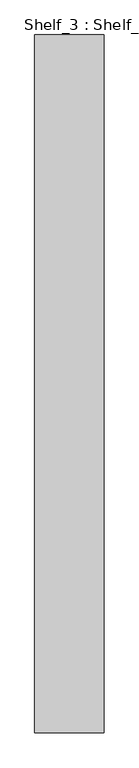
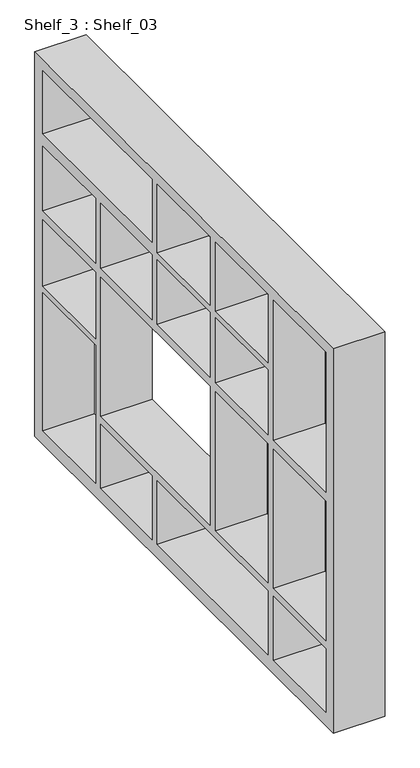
"""IFC4 building model written with IfcOpenShell, lengths in millimetres: furniture geometry, Shelf_3 : Shelf_03."""

from ifc_helpers import new_model, si_unit, frame, origin, place, context, project, spatial, polyline, outline, extrude, source, transform, mapped, element, save


def shelf_3_shelf_03_2a4fc885(model_context):
    return source(origin(), model_context, "Body", "SweptSolid", [
        extrude(outline(polyline([(13086.377102, 6410.0), (16556.377102, 6410.0), (16556.377102, 3685.0), (13086.377102, 3685.0), (13086.377102, 6410.0)]), holes=[polyline([(15191.933221, 5800.1572701), (15191.933221, 5340.1572701), (15791.933221, 5340.1572701), (15791.933221, 5800.1572701), (15191.933221, 5800.1572701)]), polyline([(14519.273461, 5800.1572701), (14519.273461, 5340.1572701), (15134.3278739, 5340.1572701), (15134.3278739, 5800.1572701), (14519.273461, 5800.1572701)]), polyline([(13846.1950469, 5800.1572701), (13846.1950469, 5340.1572701), (14453.5129263, 5340.1572701), (14453.5129263, 5800.1572701), (13846.1950469, 5800.1572701)]), polyline([(14519.273461, 6334.4508543), (14519.273461, 5848.4265117), (15134.3278739, 5848.4265117), (15134.3278739, 6334.4508543), (14519.273461, 6334.4508543)]), polyline([(14453.5129263, 6334.4508543), (13846.1950469, 6334.4508543), (13846.1950469, 5848.4265117), (14453.5129263, 5848.4265117), (14453.5129263, 6334.4508543)]), polyline([(16462.5169149, 6334.4508543), (15191.933221, 6334.4508543), (15191.933221, 5886.98304), (16462.5169149, 5886.98304), (16462.5169149, 6334.4508543)]), polyline([(13170.5427217, 6334.4508543), (13170.5427217, 5340.1572701), (13779.9881479, 5340.1572701), (13779.9881479, 6334.4508543), (13170.5427217, 6334.4508543)]), polyline([(15848.7468752, 5800.1572701), (15848.7468752, 5340.1572701), (16462.5169149, 5340.1572701), (16462.5169149, 5800.1572701), (15848.7468752, 5800.1572701)]), polyline([(16462.5169149, 5276.6319559), (15848.7468752, 5276.6319559), (15848.7468752, 4807.2543469), (16462.5169149, 4807.2543469), (16462.5169149, 5276.6319559)]), polyline([(16462.5169149, 4760.3247124), (15848.7468752, 4760.3247124), (15848.7468752, 3780.4613018), (16462.5169149, 3780.4613018), (16462.5169149, 4760.3247124)]), polyline([(14519.273461, 5276.6319559), (14519.273461, 4289.9401853), (15791.933221, 4289.9401853), (15791.933221, 5276.6319559), (14519.273461, 5276.6319559)]), polyline([(13846.1950469, 5276.6319559), (13846.1950469, 4289.9401853), (14453.5129263, 4289.9401853), (14453.5129263, 5276.6319559), (13846.1950469, 5276.6319559)]), polyline([(13779.9881479, 5276.6319559), (13170.5427217, 5276.6319559), (13170.5427217, 4289.9401853), (13779.9881479, 4289.9401853), (13779.9881479, 5276.6319559)]), polyline([(15191.933221, 4233.0518019), (15191.933221, 3780.4613018), (15791.933221, 3780.4613018), (15791.933221, 4233.0518019), (15191.933221, 4233.0518019)]), polyline([(13846.1950469, 4233.0518019), (13846.1950469, 3780.4613018), (15134.3278739, 3780.4613018), (15134.3278739, 4233.0518019), (13846.1950469, 4233.0518019)]), polyline([(13170.5427217, 4233.0518019), (13170.5427217, 3780.4613018), (13779.9881479, 3780.4613018), (13779.9881479, 4233.0518019), (13170.5427217, 4233.0518019)])]), frame((4432.7528627, 0.0, 0.0), z_axis=(1.0, 0.0, 0.0), x_axis=(0.0, 1.0, 0.0)), (0.0, 0.0, 1.0), 345.3373047),
    ])


if __name__ == "__main__":
    model = new_model("IFC4")
    model_context = context("Model", 3, world=origin())
    ifc_project = project(units=[si_unit("LENGTHUNIT", "METRE", prefix="MILLI")], contexts=[model_context])
    site = spatial("IfcSite", under=ifc_project)
    building = spatial("IfcBuilding", under=site)
    placement = place(None, origin())
    shelf_3_shelf_03_shape = shelf_3_shelf_03_2a4fc885(model_context)
    element("IfcFurniture", 1, ObjectType="Shelf_3 : Shelf_03", at=placement, inside=building, context=model_context, shape_type="MappedRepresentation", body=[
        mapped(shelf_3_shelf_03_shape, transform((0.0, 0.0, 0.0), x_axis=(1.0, 0.0, 0.0), y_axis=(0.0, 1.0, 0.0), z_axis=(0.0, 0.0, 1.0))),
    ])
    save(model, "model.ifc")
